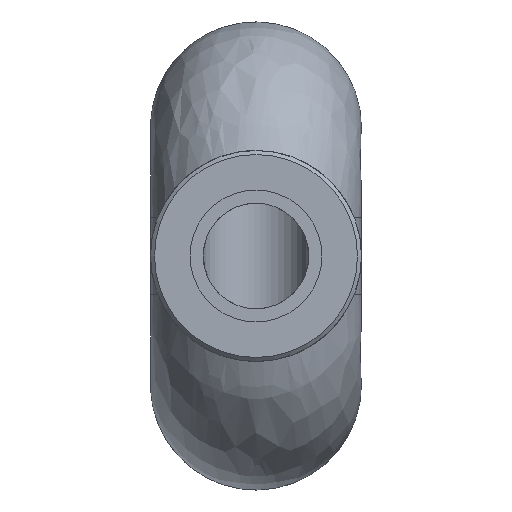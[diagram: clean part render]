
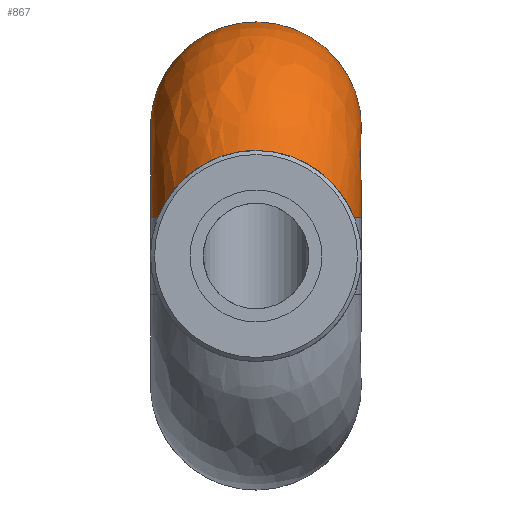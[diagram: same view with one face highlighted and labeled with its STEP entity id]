
A CAD part, front view. The second image highlights one B-rep face of the part: STEP entity #867.
In plain terms, the highlighted free-form (B-spline) face has degree [2, 2] with [9, 3] control points.
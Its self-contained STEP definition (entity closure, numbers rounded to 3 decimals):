
#17=B_SPLINE_CURVE_WITH_KNOTS('',3,(#1590,#1591,#1592,#1593,#1594,#1595,
#1596,#1597,#1598,#1599,#1600,#1601),.UNSPECIFIED.,.F.,.F.,(4,2,2,2,2,4),
(-1.081,-0.999,-0.862,-0.614,
-0.321,0.),.UNSPECIFIED.);
#18=B_SPLINE_CURVE_WITH_KNOTS('',3,(#1604,#1605,#1606,#1607,#1608,#1609,
#1610,#1611,#1612,#1613,#1614,#1615,#1616,#1617),.UNSPECIFIED.,.F.,.F.,
(4,2,2,2,2,2,4),(-2.161,-1.969,-1.712,
-1.401,-1.224,-1.107,-1.081),
 .UNSPECIFIED.);
#28=(
BOUNDED_SURFACE()
B_SPLINE_SURFACE(2,2,((#1652,#1653,#1654),(#1655,#1656,#1657),(#1658,#1659,
#1660),(#1661,#1662,#1663),(#1664,#1665,#1666),(#1667,#1668,#1669),(#1670,
#1671,#1672),(#1673,#1674,#1675),(#1676,#1677,#1678)),.UNSPECIFIED.,.F.,
 .F.,.F.)
B_SPLINE_SURFACE_WITH_KNOTS((3,2,2,2,3),(3,3),(-2.544,-1.272,
0.,1.272,2.544),(-3.142,
-1.571),.UNSPECIFIED.)
GEOMETRIC_REPRESENTATION_ITEM()
RATIONAL_B_SPLINE_SURFACE(((1.,0.707,1.),(0.804,
0.569,0.804),(1.,0.707,1.),(0.804,
0.569,0.804),(1.,0.707,1.),(0.804,
0.569,0.804),(1.,0.707,1.),(0.804,
0.569,0.804),(1.,0.707,1.)))
REPRESENTATION_ITEM('')
SURFACE()
);
#102=FACE_OUTER_BOUND('',#167,.T.);
#167=EDGE_LOOP('',(#713,#714,#715,#716,#717,#718,#719,#720));
#313=CIRCLE('',#968,0.236);
#317=CIRCLE('',#975,0.236);
#323=CIRCLE('',#992,8.);
#326=CIRCLE('',#996,8.);
#327=CIRCLE('',#997,8.);
#328=CIRCLE('',#998,8.);
#393=VERTEX_POINT('',#1523);
#394=VERTEX_POINT('',#1525);
#399=VERTEX_POINT('',#1557);
#400=VERTEX_POINT('',#1559);
#409=VERTEX_POINT('',#1586);
#411=VERTEX_POINT('',#1589);
#412=VERTEX_POINT('',#1603);
#416=VERTEX_POINT('',#1679);
#492=EDGE_CURVE('',#394,#393,#313,.T.);
#500=EDGE_CURVE('',#400,#399,#317,.T.);
#513=EDGE_CURVE('',#411,#409,#17,.T.);
#515=EDGE_CURVE('',#412,#411,#18,.T.);
#520=EDGE_CURVE('',#394,#409,#323,.T.);
#523=EDGE_CURVE('',#412,#399,#326,.T.);
#524=EDGE_CURVE('',#393,#416,#327,.T.);
#525=EDGE_CURVE('',#416,#400,#328,.T.);
#713=ORIENTED_EDGE('',*,*,#515,.T.);
#714=ORIENTED_EDGE('',*,*,#513,.T.);
#715=ORIENTED_EDGE('',*,*,#520,.F.);
#716=ORIENTED_EDGE('',*,*,#492,.T.);
#717=ORIENTED_EDGE('',*,*,#524,.T.);
#718=ORIENTED_EDGE('',*,*,#525,.T.);
#719=ORIENTED_EDGE('',*,*,#500,.T.);
#720=ORIENTED_EDGE('',*,*,#523,.F.);
#867=ADVANCED_FACE('',(#102),#28,.F.);
#968=AXIS2_PLACEMENT_3D('',#1526,#1174,#1175);
#975=AXIS2_PLACEMENT_3D('',#1560,#1191,#1192);
#992=AXIS2_PLACEMENT_3D('',#1647,#1232,#1233);
#996=AXIS2_PLACEMENT_3D('',#1651,#1240,#1241);
#997=AXIS2_PLACEMENT_3D('',#1680,#1242,#1243);
#998=AXIS2_PLACEMENT_3D('',#1681,#1244,#1245);
#1174=DIRECTION('center_axis',(-1.,0.,0.));
#1175=DIRECTION('ref_axis',(0.,0.,-1.));
#1191=DIRECTION('center_axis',(1.,0.,0.));
#1192=DIRECTION('ref_axis',(0.,0.,-1.));
#1232=DIRECTION('center_axis',(0.,0.,-1.));
#1233=DIRECTION('ref_axis',(1.,0.,0.));
#1240=DIRECTION('center_axis',(0.,0.,-1.));
#1241=DIRECTION('ref_axis',(1.,0.,0.));
#1242=DIRECTION('center_axis',(0.,-1.,0.));
#1243=DIRECTION('ref_axis',(1.,0.,0.));
#1244=DIRECTION('center_axis',(0.,-1.,0.));
#1245=DIRECTION('ref_axis',(1.,0.,0.));
#1523=CARTESIAN_POINT('',(4.5,-2.5,3.136));
#1525=CARTESIAN_POINT('',(4.5,-2.736,2.9));
#1526=CARTESIAN_POINT('Origin',(4.5,-2.5,2.9));
#1557=CARTESIAN_POINT('',(-4.5,-2.736,2.9));
#1559=CARTESIAN_POINT('',(-4.5,-2.5,3.136));
#1560=CARTESIAN_POINT('Origin',(-4.5,-2.5,2.9));
#1586=CARTESIAN_POINT('',(7.456,-12.25,2.9));
#1589=CARTESIAN_POINT('',(0.,-16.447,8.));
#1590=CARTESIAN_POINT('Ctrl Pts',(0.,-16.447,
8.));
#1591=CARTESIAN_POINT('Ctrl Pts',(0.269,-16.447,8.));
#1592=CARTESIAN_POINT('Ctrl Pts',(0.539,-16.437,7.986));
#1593=CARTESIAN_POINT('Ctrl Pts',(1.257,-16.386,7.914));
#1594=CARTESIAN_POINT('Ctrl Pts',(1.7,-16.328,7.83));
#1595=CARTESIAN_POINT('Ctrl Pts',(2.908,-16.091,7.496));
#1596=CARTESIAN_POINT('Ctrl Pts',(3.628,-15.858,7.171));
#1597=CARTESIAN_POINT('Ctrl Pts',(5.035,-15.194,6.282));
#1598=CARTESIAN_POINT('Ctrl Pts',(5.675,-14.743,5.698));
#1599=CARTESIAN_POINT('Ctrl Pts',(6.76,-13.639,4.371));
#1600=CARTESIAN_POINT('Ctrl Pts',(7.172,-12.98,3.63));
#1601=CARTESIAN_POINT('Ctrl Pts',(7.456,-12.25,2.9));
#1603=CARTESIAN_POINT('',(-7.456,-12.25,2.9));
#1604=CARTESIAN_POINT('Ctrl Pts',(-7.456,-12.25,2.9));
#1605=CARTESIAN_POINT('Ctrl Pts',(-7.286,-12.686,3.336));
#1606=CARTESIAN_POINT('Ctrl Pts',(-7.071,-13.098,3.777));
#1607=CARTESIAN_POINT('Ctrl Pts',(-6.444,-13.997,4.79));
#1608=CARTESIAN_POINT('Ctrl Pts',(-5.994,-14.46,5.352));
#1609=CARTESIAN_POINT('Ctrl Pts',(-4.777,-15.35,6.481));
#1610=CARTESIAN_POINT('Ctrl Pts',(-3.977,-15.741,7.012));
#1611=CARTESIAN_POINT('Ctrl Pts',(-2.536,-16.171,7.608));
#1612=CARTESIAN_POINT('Ctrl Pts',(-1.982,-16.287,7.773));
#1613=CARTESIAN_POINT('Ctrl Pts',(-1.03,-16.407,7.943));
#1614=CARTESIAN_POINT('Ctrl Pts',(-0.647,-16.435,
7.983));
#1615=CARTESIAN_POINT('Ctrl Pts',(-0.174,-16.446,
7.999));
#1616=CARTESIAN_POINT('Ctrl Pts',(-0.087,-16.447,
8.));
#1617=CARTESIAN_POINT('Ctrl Pts',(0.,-16.447,
8.));
#1647=CARTESIAN_POINT('Origin',(0.,-9.35,2.9));
#1651=CARTESIAN_POINT('Origin',(0.,-9.35,2.9));
#1652=CARTESIAN_POINT('Ctrl Pts',(-4.5,-2.5,3.136));
#1653=CARTESIAN_POINT('Ctrl Pts',(-4.5,-2.736,3.136));
#1654=CARTESIAN_POINT('Ctrl Pts',(-4.5,-2.736,2.9));
#1655=CARTESIAN_POINT('Ctrl Pts',(-9.384,-2.5,6.458));
#1656=CARTESIAN_POINT('Ctrl Pts',(-9.384,-6.058,6.458));
#1657=CARTESIAN_POINT('Ctrl Pts',(-9.384,-6.058,2.9));
#1658=CARTESIAN_POINT('Ctrl Pts',(-7.646,-2.5,12.104));
#1659=CARTESIAN_POINT('Ctrl Pts',(-7.646,-11.704,12.104));
#1660=CARTESIAN_POINT('Ctrl Pts',(-7.646,-11.704,2.9));
#1661=CARTESIAN_POINT('Ctrl Pts',(-5.907,-2.5,17.75));
#1662=CARTESIAN_POINT('Ctrl Pts',(-5.907,-17.35,17.75));
#1663=CARTESIAN_POINT('Ctrl Pts',(-5.907,-17.35,2.9));
#1664=CARTESIAN_POINT('Ctrl Pts',(0.,-2.5,17.75));
#1665=CARTESIAN_POINT('Ctrl Pts',(0.,-17.35,17.75));
#1666=CARTESIAN_POINT('Ctrl Pts',(0.,-17.35,2.9));
#1667=CARTESIAN_POINT('Ctrl Pts',(5.907,-2.5,17.75));
#1668=CARTESIAN_POINT('Ctrl Pts',(5.907,-17.35,17.75));
#1669=CARTESIAN_POINT('Ctrl Pts',(5.907,-17.35,2.9));
#1670=CARTESIAN_POINT('Ctrl Pts',(7.646,-2.5,12.104));
#1671=CARTESIAN_POINT('Ctrl Pts',(7.646,-11.704,12.104));
#1672=CARTESIAN_POINT('Ctrl Pts',(7.646,-11.704,2.9));
#1673=CARTESIAN_POINT('Ctrl Pts',(9.384,-2.5,6.458));
#1674=CARTESIAN_POINT('Ctrl Pts',(9.384,-6.058,6.458));
#1675=CARTESIAN_POINT('Ctrl Pts',(9.384,-6.058,2.9));
#1676=CARTESIAN_POINT('Ctrl Pts',(4.5,-2.5,3.136));
#1677=CARTESIAN_POINT('Ctrl Pts',(4.5,-2.736,3.136));
#1678=CARTESIAN_POINT('Ctrl Pts',(4.5,-2.736,2.9));
#1679=CARTESIAN_POINT('',(8.,-2.5,9.75));
#1680=CARTESIAN_POINT('Origin',(0.,-2.5,9.75));
#1681=CARTESIAN_POINT('Origin',(0.,-2.5,9.75));
